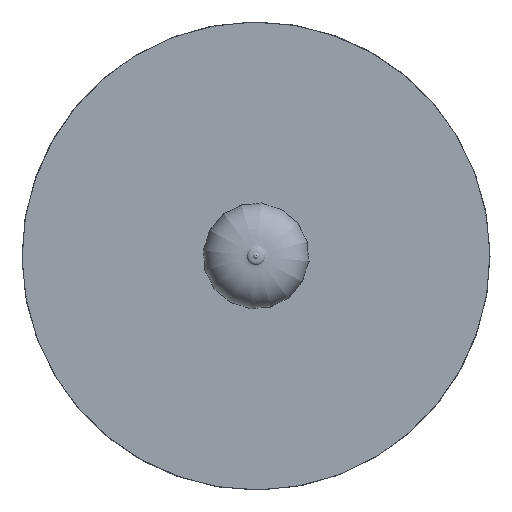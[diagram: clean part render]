
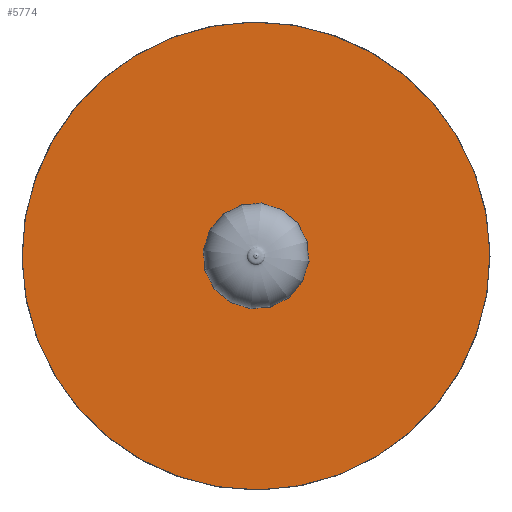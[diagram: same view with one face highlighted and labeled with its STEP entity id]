
A CAD part, front view. The second image highlights one B-rep face of the part: STEP entity #5774.
In plain terms, the highlighted planar face has unit normal (0, -1, 0) as drawn and (0, 0, -1) by its records, which use the part's own axes.
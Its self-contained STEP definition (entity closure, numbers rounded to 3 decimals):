
#1918=CIRCLE('',#6427,135.);
#2222=FACE_OUTER_BOUND('',#2488,.T.);
#2488=EDGE_LOOP('',(#4672));
#3246=VERTEX_POINT('',#9818);
#3776=EDGE_CURVE('',#3246,#3246,#1918,.T.);
#4672=ORIENTED_EDGE('',*,*,#3776,.T.);
#5611=PLANE('',#6428);
#5774=ADVANCED_FACE('',(#2222),#5611,.F.);
#6427=AXIS2_PLACEMENT_3D('',#9820,#7663,#7664);
#6428=AXIS2_PLACEMENT_3D('',#9821,#7665,#7666);
#7663=DIRECTION('center_axis',(0.,0.,-1.));
#7664=DIRECTION('ref_axis',(-1.,0.,0.));
#7665=DIRECTION('center_axis',(0.,0.,1.));
#7666=DIRECTION('ref_axis',(1.,0.,0.));
#9818=CARTESIAN_POINT('',(135.,0.,0.));
#9820=CARTESIAN_POINT('Origin',(0.,0.,0.));
#9821=CARTESIAN_POINT('Origin',(0.,0.,
0.));
